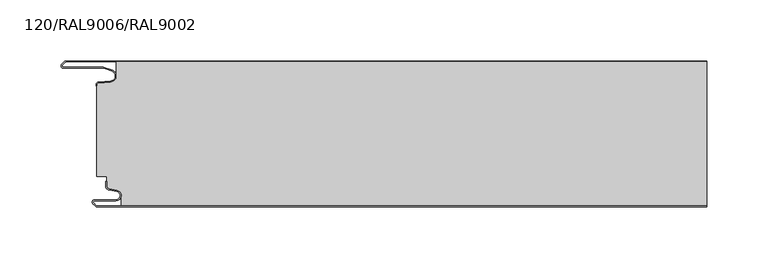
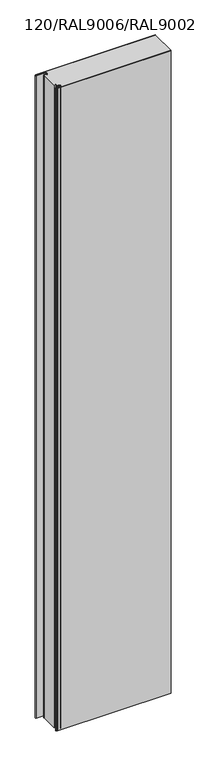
"""IFC4 building model written with IfcOpenShell, lengths in millimetres: plate geometry, TR_C_V_FHL_Panel_cut_GROOVE : 120/RAL9006/RAL9002."""

from ifc_helpers import new_model, si_unit, point, frame_2d, origin, origin_with_axes, place, context, project, spatial, polyline, circle_curve, trimmed, segment, composite_curve, outline, extrude, source, transform, mapped, element, save


def plate_120_ral9006_ral9002_8b50576c(model_context):
    return source(origin(), model_context, "Body", "SweptSolid", [
        extrude(outline(composite_curve([segment(polyline([(-242.9000002, -99.0), (-242.1000002, -99.0), (-242.1000002, -102.3925589)]), True, "CONTINUOUS"), segment(trimmed(circle_curve(frame_2d((-239.1500002, -102.3925589)), 2.95), [point((-242.1000002, -102.3925589))], [point((-239.6622623, -105.2977418))], True, "CARTESIAN"), True, "CONTINUOUS"), segment(polyline([(-239.6622623, -105.2977418), (-233.6119954, -106.364567)]), True, "CONTINUOUS"), segment(trimmed(circle_curve(frame_2d((-234.3500002, -110.55)), 4.25), [point((-233.6119954, -106.364567))], [point((-234.3500002, -114.8))], False, "CARTESIAN"), True, "CONTINUOUS"), segment(polyline([(-234.3500002, -114.8), (-251.9500002, -114.8)]), True, "CONTINUOUS"), segment(trimmed(circle_curve(frame_2d((-251.9500002, -115.95)), 1.15), [point((-251.9500002, -114.8))], [point((-252.763173, -116.7631728))], True, "CARTESIAN"), True, "CONTINUOUS"), segment(polyline([(-252.763173, -116.7631728), (-250.8974875, -118.6288582)]), True, "CONTINUOUS"), segment(trimmed(circle_curve(frame_2d((-249.5186293, -117.25)), 1.95), [point((-250.8974875, -118.6288582))], [point((-249.5186293, -119.2))], True, "CARTESIAN"), True, "CONTINUOUS"), segment(polyline([(-249.5186293, -119.2), (250.0000002, -119.2), (250.0000002, -120.0), (-249.5186293, -120.0)]), True, "CONTINUOUS"), segment(trimmed(circle_curve(frame_2d((-249.5186293, -117.25)), 2.75), [point((-249.5186293, -120.0))], [point((-251.463173, -119.1945436))], False, "CARTESIAN"), True, "CONTINUOUS"), segment(polyline([(-251.463173, -119.1945436), (-253.3288584, -117.3288582)]), True, "CONTINUOUS"), segment(trimmed(circle_curve(frame_2d((-251.9500002, -115.95)), 1.95), [point((-253.3288584, -117.3288582))], [point((-251.9500002, -114.0))], False, "CARTESIAN"), True, "CONTINUOUS"), segment(polyline([(-251.9500002, -114.0), (-234.3500002, -114.0)]), True, "CONTINUOUS"), segment(trimmed(circle_curve(frame_2d((-234.3500002, -110.55)), 3.45), [point((-234.3500002, -114.0))], [point((-233.7509139, -107.1524133))], True, "CARTESIAN"), True, "CONTINUOUS"), segment(polyline([(-233.7509139, -107.1524133), (-239.8011808, -106.085588)]), True, "CONTINUOUS"), segment(trimmed(circle_curve(frame_2d((-239.1500002, -102.3925589)), 3.75), [point((-239.8011808, -106.085588))], [point((-242.9000002, -102.3925589))], False, "CARTESIAN"), True, "CONTINUOUS"), segment(polyline([(-242.9000002, -102.3925589), (-242.9000002, -99.0)]), True, "CONTINUOUS")], self_intersect=False)), origin_with_axes(), (0.0, 0.0, 1.0), 2980.0),
        extrude(outline(composite_curve([segment(polyline([(-230.1000002, -119.2), (-230.1000002, -110.55)]), True, "CONTINUOUS"), segment(trimmed(circle_curve(frame_2d((-234.3500002, -110.55)), 4.25), [point((-230.1000002, -110.55))], [point((-233.6119954, -106.364567))], True, "CARTESIAN"), True, "CONTINUOUS"), segment(polyline([(-233.6119954, -106.364567), (-239.6622623, -105.2977418)]), True, "CONTINUOUS"), segment(trimmed(circle_curve(frame_2d((-239.1500002, -102.3925589)), 2.95), [point((-239.6622623, -105.2977418))], [point((-242.1000002, -102.3925589))], False, "CARTESIAN"), True, "CONTINUOUS"), segment(polyline([(-242.1000002, -102.3925589), (-242.1000002, -94.86), (-250.0000002, -94.86), (-250.0000002, -20.8), (-249.9000002, -19.7908279)]), True, "CONTINUOUS"), segment(trimmed(circle_curve(frame_2d((-248.2000002, -19.7908279)), 1.7), [point((-249.9000002, -19.7908279))], [point((-248.3481649, -18.0972969))], False, "CARTESIAN"), True, "CONTINUOUS"), segment(polyline([(-248.3481649, -18.0972969), (-238.4735886, -17.2333835)]), True, "CONTINUOUS"), segment(trimmed(circle_curve(frame_2d((-238.9006517, -12.3520294)), 4.9), [point((-238.4735886, -17.2333835))], [point((-234.0006517, -12.3520294))], True, "CARTESIAN"), True, "CONTINUOUS"), segment(polyline([(-234.0006517, -12.3520294), (-234.0006517, -0.8), (250.0000002, -0.8), (250.0000002, -119.2), (-230.1000002, -119.2)]), True, "CONTINUOUS")], self_intersect=False)), origin_with_axes(), (0.0, 0.0, 1.0), 2980.0),
        extrude(outline(composite_curve([segment(trimmed(circle_curve(frame_2d((-275.1006171, -2.7)), 2.7), [point((-277.0752721, -0.8586044))], [point((-275.1006171, 0.0))], False, "CARTESIAN"), True, "CONTINUOUS"), segment(polyline([(-275.1006171, 0.0), (250.0000002, 0.0), (250.0000002, -0.8), (-275.1006171, -0.8)]), True, "CONTINUOUS"), segment(trimmed(circle_curve(frame_2d((-275.1006171, -2.7)), 1.9), [point((-275.1006171, -0.8))], [point((-276.4901891, -1.4042031))], True, "CARTESIAN"), True, "CONTINUOUS"), segment(polyline([(-276.4901891, -1.4042031), (-278.3044892, -3.3498018)]), True, "CONTINUOUS"), segment(trimmed(circle_curve(frame_2d((-277.5000002, -4.1)), 1.1), [point((-278.3044892, -3.3498018))], [point((-277.5000002, -5.2))], True, "CARTESIAN"), True, "CONTINUOUS"), segment(polyline([(-277.5000002, -5.2), (-245.1732719, -5.2)]), True, "CONTINUOUS"), segment(trimmed(circle_curve(frame_2d((-245.1732719, -8.5)), 3.3), [point((-245.1732719, -5.2))], [point((-244.098897, -5.3797887))], False, "CARTESIAN"), True, "CONTINUOUS"), segment(polyline([(-244.098897, -5.3797887), (-237.3053678, -7.7189884)]), True, "CONTINUOUS"), segment(trimmed(circle_curve(frame_2d((-238.9006517, -12.3520294)), 4.9), [point((-237.3053678, -7.7189884))], [point((-238.4735886, -17.2333835))], False, "CARTESIAN"), True, "CONTINUOUS"), segment(polyline([(-238.4735886, -17.2333835), (-248.3481649, -18.0972969)]), True, "CONTINUOUS"), segment(trimmed(circle_curve(frame_2d((-248.2000002, -19.7908279)), 1.7), [point((-248.3481649, -18.0972969))], [point((-249.9000002, -19.7908279))], True, "CARTESIAN"), True, "CONTINUOUS"), segment(polyline([(-249.9000002, -19.7908279), (-249.9000002, -20.8), (-250.7000002, -20.8), (-250.7000002, -19.7908279)]), True, "CONTINUOUS"), segment(trimmed(circle_curve(frame_2d((-248.2000002, -19.7908279)), 2.5), [point((-250.7000002, -19.7908279))], [point((-248.4178895, -17.3003412))], False, "CARTESIAN"), True, "CONTINUOUS"), segment(polyline([(-248.4178895, -17.3003412), (-238.5433132, -16.4364277)]), True, "CONTINUOUS"), segment(trimmed(circle_curve(frame_2d((-238.9006517, -12.3520294)), 4.1), [point((-238.5433132, -16.4364277))], [point((-237.5658223, -8.4754033))], True, "CARTESIAN"), True, "CONTINUOUS"), segment(polyline([(-237.5658223, -8.4754033), (-244.3593515, -6.1362036)]), True, "CONTINUOUS"), segment(trimmed(circle_curve(frame_2d((-245.1732719, -8.5)), 2.5), [point((-244.3593515, -6.1362036))], [point((-245.1732719, -6.0))], True, "CARTESIAN"), True, "CONTINUOUS"), segment(polyline([(-245.1732719, -6.0), (-277.5000002, -6.0)]), True, "CONTINUOUS"), segment(trimmed(circle_curve(frame_2d((-277.5000002, -4.1)), 1.9), [point((-277.5000002, -6.0))], [point((-278.8895722, -2.8042031))], False, "CARTESIAN"), True, "CONTINUOUS"), segment(polyline([(-278.8895722, -2.8042031), (-277.0752721, -0.8586044)]), True, "CONTINUOUS")], self_intersect=False)), origin_with_axes(), (0.0, 0.0, 1.0), 2980.0),
    ])


if __name__ == "__main__":
    model = new_model("IFC4")
    model_context = context("Model", 3, world=origin())
    ifc_project = project(units=[si_unit("LENGTHUNIT", "METRE", prefix="MILLI")], contexts=[model_context])
    site = spatial("IfcSite", under=ifc_project)
    building = spatial("IfcBuilding", under=site)
    placement = place(None, origin())
    plate_120_ral9006_ral9002_shape = plate_120_ral9006_ral9002_8b50576c(model_context)
    element("IfcPlate", 1, ObjectType="TR_C_V_FHL_Panel_cut_GROOVE : 120/RAL9006/RAL9002", at=placement, inside=building, context=model_context, shape_type="MappedRepresentation", body=[
        mapped(plate_120_ral9006_ral9002_shape, transform((0.0, 0.0, 0.0), x_axis=(1.0, 0.0, 0.0), y_axis=(0.0, 1.0, 0.0), z_axis=(0.0, 0.0, 1.0))),
    ])
    save(model, "model.ifc")
